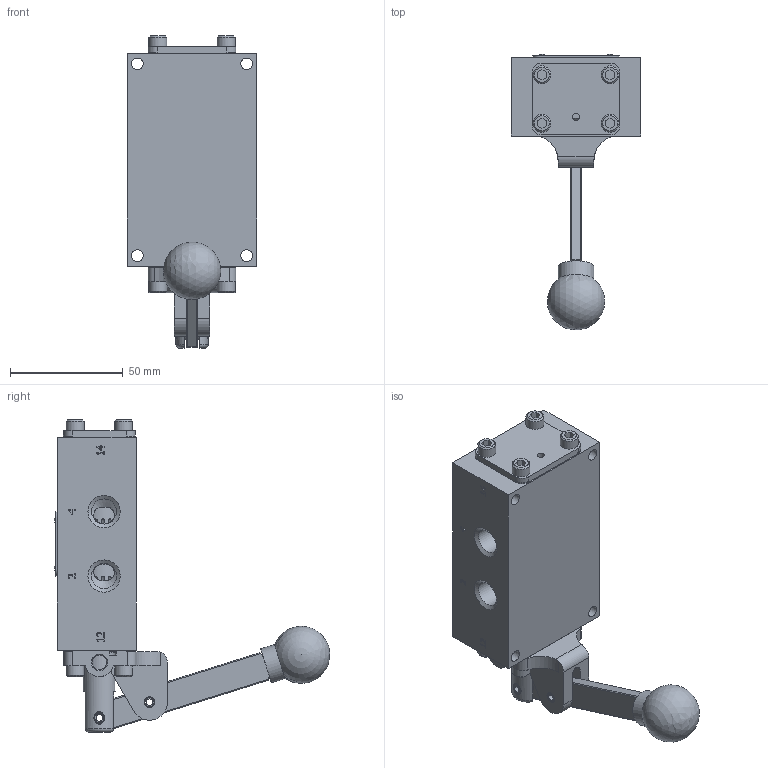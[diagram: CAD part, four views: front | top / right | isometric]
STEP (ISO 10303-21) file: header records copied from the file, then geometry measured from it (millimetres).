
FILE_DESCRIPTION(/* description */ (''),/* implementation_level */ '2;1');
FILE_NAME(/* name */ 'D:\Engineering\Product\valves\Assembly\lever\HO\stp\HO2HLOT.stp',/* time_stamp */ '2022-11-29T07:10:53-05:00',/* author */ ('RMcKenna'),/* organization */ (''),/* preprocessor_version */ 'ST-DEVELOPER v18.1',/* originating_system */ 'Autodesk Inventor 2021',/* authorisation */ '');
FILE_SCHEMA (('AUTOMOTIVE_DESIGN { 1 0 10303 214 3 1 1 }'));
Length unit declared in the file: centimetre
Products named in the file (1): Part11
Bounding box: 57.15 x 121.88 x 138.33 mm (x, y, z)
Volume: 195067 mm3; surface area: 61016.2 mm2
Topology: 1 solids, 30 shells, 1163 faces, 2888 edges, 1853 vertices
Faces by surface type: plane 511, cone 242, cylinder 212, bspline 106, torus 89, sphere 3
Full cylindrical faces by diameter (mm): 2.07 x2, 2.261 x2, 2.778 x2, 3.175 x3, 3.683 x10, 3.912 x3, 4.75 x2, 4.763 x2, 4.826 x8, 4.978 x4, 5.055 x1, 5.156 x12, 6.528 x2, 7.798 x1, 7.938 x8, 8.153 x1, 9.922 x1, 11.113 x6, 11.303 x2, 14.275 x1, 14.986 x1, 15.748 x1, 18.618 x2, 18.745 x12, 19.177 x2, 23.825 x7
Entity records: 39326 total; most frequent: CARTESIAN_POINT 11059, ORIENTED_EDGE 5738, DIRECTION 5330, EDGE_CURVE 2869, AXIS2_PLACEMENT_3D 1930, VERTEX_POINT 1853, LINE 1470, VECTOR 1470
